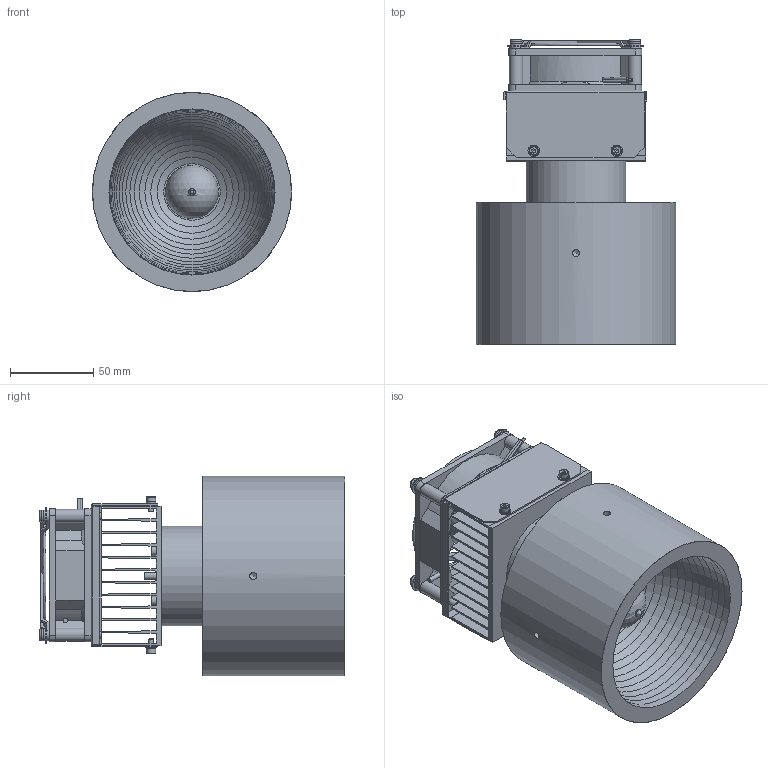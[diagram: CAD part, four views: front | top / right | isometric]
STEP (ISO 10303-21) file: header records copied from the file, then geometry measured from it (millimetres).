
FILE_DESCRIPTION(/* description */ (''),/* implementation_level */ '2;1');
FILE_NAME(/* name */ 'D:/ドキュメント/ACLT/その他/FTC_HP/HSH/3D/HSH120_FAN_01 v2.step',/* time_stamp */ '2018-07-12T13:09:44+09:00',/* author */ ('j.masuoka@mbe.nifty.com'),/* organization */ (''),/* preprocessor_version */ 'ST-DEVELOPER v17',/* originating_system */ 'Autodesk Translation Framework v7.1.0.215',/* authorisation */ '');
FILE_SCHEMA (('AUTOMOTIVE_DESIGN { 1 0 10303 214 3 1 1 }'));
Length unit declared in the file: millimetre
Products named in the file (48): HSH120_FAN_01; HSH120ベース v3; HSH120ランプ v2; HSH120フィラメント v2; HSH120スリーブ v1; HSH120ミラー v1 v5; HSH120リード2a v2; 放熱器120 v3; HSH120ファン金具 v2; SCBS3-6 v2; _BOLTSCBS3-6; _SPRWAS3; _PLWAS3; SCBS3-6 v2 (1); _BOLTSCBS3-6 (1); _SPRWAS3 (1); _PLWAS3 (1); SCBS3-6 v2 (2); _BOLTSCBS3-6 (2); _SPRWAS3 (2); _PLWAS3 (2); SCBS3-6 v2 (3); _BOLTSCBS3-6 (3); _SPRWAS3 (3); _PLWAS3 (3); SCB3-6 v2; SCB3-6 v2 (1); SCB3-6 v2 (2); SCB3-6 v2 (3); MD825B-24L _BK v1; _MD825B-24L-part; FG8D v2; NSET4-35 sus v1; _BOLTNSET4-35; _SPWASHNSET4-8; _WASHNSET4-8; NSET4-35 sus v1 (1); _BOLTNSET4-35 (1); _SPWASHNSET4-8 (1); _WASHNSET4-8 (1)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
Assembly tree (47 placements, depth 3):
  HSH120_FAN_01
    HSH120ベース v3
    HSH120ランプ v2
    HSH120フィラメント v2
    HSH120スリーブ v1
    HSH120ミラー v1 v5
    HSH120リード2a v2
    放熱器120 v3
    HSH120ファン金具 v2
    SCBS3-6 v2
      _BOLTSCBS3-6
      _SPRWAS3
      _PLWAS3
    SCBS3-6 v2 (1)
      _BOLTSCBS3-6 (1)
      _SPRWAS3 (1)
      _PLWAS3 (1)
    SCBS3-6 v2 (2)
      _BOLTSCBS3-6 (2)
      _SPRWAS3 (2)
      _PLWAS3 (2)
    SCBS3-6 v2 (3)
      _BOLTSCBS3-6 (3)
      _SPRWAS3 (3)
      _PLWAS3 (3)
    SCB3-6 v2
    SCB3-6 v2 (1)
    SCB3-6 v2 (2)
    SCB3-6 v2 (3)
    MD825B-24L _BK v1
      _MD825B-24L-part
    FG8D v2
    NSET4-35 sus v1
      _BOLTNSET4-35
      _SPWASHNSET4-8
      _WASHNSET4-8
    NSET4-35 sus v1 (1)
      _BOLTNSET4-35 (1)
      _SPWASHNSET4-8 (1)
      _WASHNSET4-8 (1)
    NSET4-35 sus v1 (2)
      _BOLTNSET4-35 (2)
      _SPWASHNSET4-8 (2)
      _WASHNSET4-8 (2)
    NSET4-35 sus v1 (3)
      _BOLTNSET4-35 (3)
      _SPWASHNSET4-8 (3)
      _WASHNSET4-8 (3)
Bounding box: 120 x 183.69 x 120 mm (x, y, z)
Volume: 789811.1 mm3; surface area: 241402.5 mm2
Topology: 38 solids, 38 shells, 803 faces, 2292 edges, 1559 vertices
Faces by surface type: plane 510, cylinder 192, cone 74, torus 19, sphere 8
Full cylindrical faces by diameter (mm): 1.5 x3, 2.529 x4, 2.693 x4, 2.8 x2, 3 x12, 3.4 x4, 3.57 x4, 3.6 x4, 4 x9, 4.234 x4, 4.3 x4, 4.5 x4, 5 x2, 5.5 x8, 7 x8, 8 x5, 10 x4, 15.5 x2, 16.5 x1, 18.5 x1, 34 x2, 38 x1, 60 x1, 74.6 x1, 120 x1
Entity records: 29794 total; most frequent: CARTESIAN_POINT 6194, DIRECTION 4885, ORIENTED_EDGE 4552, EDGE_CURVE 2276, AXIS2_PLACEMENT_3D 1841, VERTEX_POINT 1559, LINE 1203, VECTOR 1203
